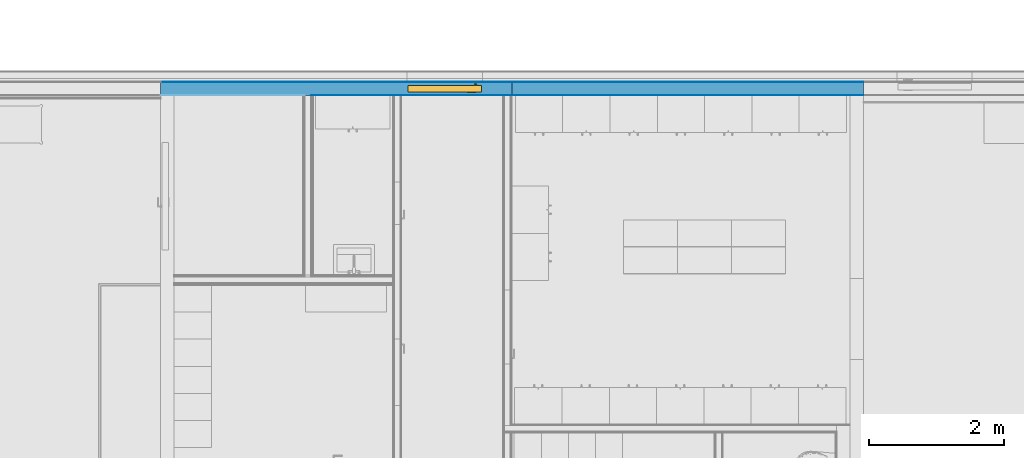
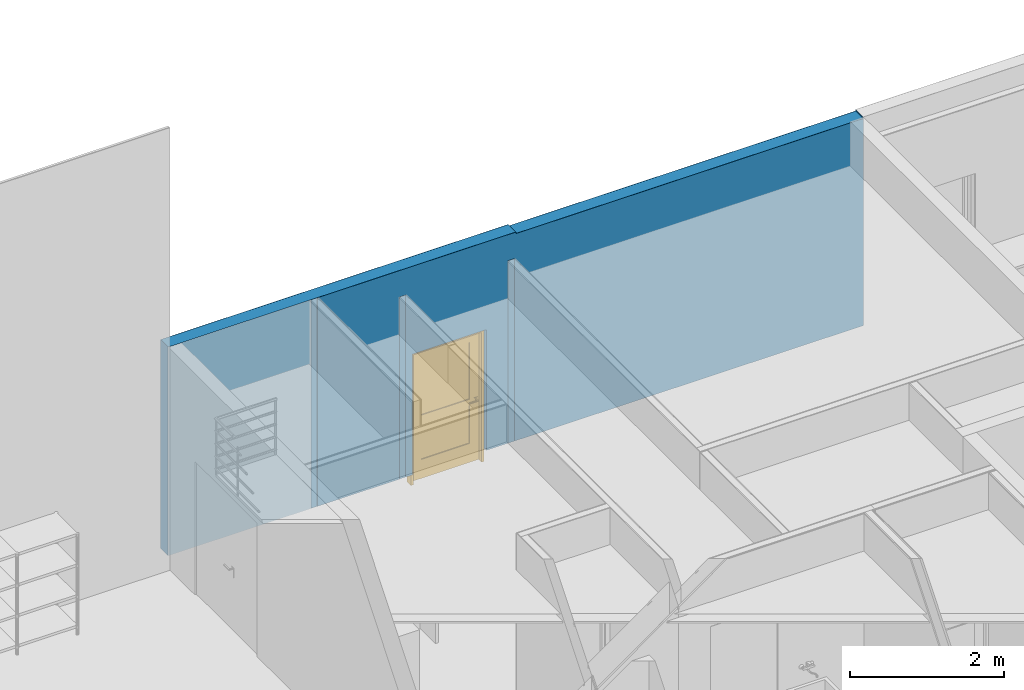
# One storey, part 25 of 67: 3 building element parts, 1 door, 1 opening, 1 element without a shape of its own, plus 1 element that does not belong to this part.
"""IFC4 building model written with IfcOpenShell, lengths in millimetres."""

import ifcopenshell
import ifcopenshell.guid

model = None  # the IFC model being written
_history = None  # IfcOwnerHistory: only IFC2X3 demands one
_inside = {}  # id of a spatial element -> (the spatial element, [elements in it])
_under = {}  # id of a project, library or spatial element -> (it, [spatial elements below it])
_declared = {}  # id of a project -> (the project, [libraries it declares])
_typed = {}  # id of a type object -> (the type object, [elements of that type])
_made_of = {}  # id of a material, layer set ... -> (it, [elements and type objects made of it])


def new_model(schema):
    """Start an empty IFC model of exactly this schema.

    Asked for "IFC4X3", IfcOpenShell would pick the latest addendum, in which some entities
    have other attributes; the version numbers below select the first issue.
    IFC2X3 requires an IfcOwnerHistory on every rooted entity: one is made here for all.
    """
    global model, _history
    if schema == "IFC4X3":
        model = ifcopenshell.file(schema_version=(4, 3, 0, 0))
    else:
        model = ifcopenshell.file(schema=schema)
    _inside.clear()
    _under.clear()
    _declared.clear()
    _typed.clear()
    _made_of.clear()
    _history = None
    if model.schema == "IFC2X3":
        org = make("IfcOrganization", Name="unknown")
        user = make(
            "IfcPersonAndOrganization",
            ThePerson=make("IfcPerson", FamilyName="unknown"),
            TheOrganization=org,
        )
        app = make(
            "IfcApplication",
            ApplicationDeveloper=org,
            Version="unknown",
            ApplicationFullName="unknown",
            ApplicationIdentifier="unknown",
        )
        _history = make(
            "IfcOwnerHistory",
            OwningUser=user,
            OwningApplication=app,
            ChangeAction="ADDED",
            CreationDate=0,
        )
    return model


def make(cls, **values):
    """One entity of the class cls with the attributes given. An attribute that is None is left unset."""
    return model.create_entity(
        cls, **{name: value for name, value in values.items() if value is not None}
    )


def entity(cls, *values):
    """Any entity or typed value of the class cls, its attributes in the order of the schema. None: left unset."""
    e = model.create_entity(cls)
    for i, value in enumerate(values):
        if value is not None:
            e[i] = value
    return e


def rooted(cls, **values):
    """An entity with a GlobalId (a new one), such as an element, a storey or a relation."""
    return make(cls, GlobalId=ifcopenshell.guid.new(), OwnerHistory=_history, **values)


def si_unit(unit_type, name, prefix=None):
    """IfcSIUnit, for example si_unit("LENGTHUNIT", "METRE", prefix="MILLI")."""
    return make("IfcSIUnit", UnitType=unit_type, Prefix=prefix, Name=name)


def converted_unit(unit_type, name, factor, base, dimensions=None, offset=None):
    """IfcConversionBasedUnit, such as the inch: factor (a typed value) times the base unit."""
    return make(
        "IfcConversionBasedUnit"
        if offset is None
        else "IfcConversionBasedUnitWithOffset",
        ConversionOffset=offset,
        Dimensions=None
        if dimensions is None
        else entity("IfcDimensionalExponents", *dimensions),
        UnitType=unit_type,
        Name=name,
        ConversionFactor=make(
            "IfcMeasureWithUnit", ValueComponent=factor, UnitComponent=base
        ),
    )


def assignment(units):
    """IfcUnitAssignment: the units of a project."""
    return None if units is None else make("IfcUnitAssignment", Units=units)


def point(xyz):
    """IfcCartesianPoint."""
    return None if xyz is None else make("IfcCartesianPoint", Coordinates=xyz)


def direction(xyz):
    """IfcDirection."""
    return None if xyz is None else make("IfcDirection", DirectionRatios=xyz)


def frame(location, z_axis=None, x_axis=None):
    """IfcAxis2Placement3D, a coordinate frame: its origin and axes. An axis left out is left unset."""
    return make(
        "IfcAxis2Placement3D",
        Location=point(location),
        Axis=direction(z_axis),
        RefDirection=direction(x_axis),
    )


def origin():
    """The frame at (0, 0, 0) with its axes left unset."""
    return frame((0.0, 0.0, 0.0))


def place(relative_to, where):
    """IfcLocalPlacement: puts the frame where relative to a parent placement (None: the world)."""
    return make(
        "IfcLocalPlacement", PlacementRelTo=relative_to, RelativePlacement=where
    )


def context(
    kind, dimensions, precision=None, world=None, true_north=None, identifier=None
):
    """IfcGeometricRepresentationContext, for example the 3D "Model" context."""
    return make(
        "IfcGeometricRepresentationContext",
        ContextIdentifier=identifier,
        ContextType=kind,
        CoordinateSpaceDimension=dimensions,
        Precision=precision,
        WorldCoordinateSystem=world,
        TrueNorth=true_north,
    )


def subcontext(parent, identifier, kind, view, scale=None):
    """IfcGeometricRepresentationSubContext, for example "Body" below "Model"."""
    return make(
        "IfcGeometricRepresentationSubContext",
        ContextIdentifier=identifier,
        ContextType=kind,
        ParentContext=parent,
        TargetScale=scale,
        TargetView=view,
    )


def project(units=None, contexts=None):
    """IfcProject with its units and contexts."""
    return rooted(
        "IfcProject",
        Name="project",
        RepresentationContexts=contexts,
        UnitsInContext=assignment(units),
    )


def spatial(cls, under=None, at=None, **own):
    """A site, building, storey or space (cls), placed at a placement, below another one or the project."""
    s = rooted(cls, ObjectPlacement=at, **own)
    if under is not None:
        _under.setdefault(under.id(), (under, []))[1].append(s)
    return s


def point_list(points):
    """IfcCartesianPointList2D or 3D."""
    cls = (
        "IfcCartesianPointList2D" if len(points[0]) == 2 else "IfcCartesianPointList3D"
    )
    return make(cls, CoordList=points)


def indexed_curve(points, segments=None, self_intersect=None):
    """IfcIndexedPolyCurve: lines and arcs through numbered points (the first is 1)."""
    return make(
        "IfcIndexedPolyCurve",
        Points=point_list(points),
        Segments=segments,
        SelfIntersect=self_intersect,
    )


def outline(outer, holes=None, kind="AREA"):
    """IfcArbitraryClosedProfileDef: a profile drawn as a closed curve; with holes, ...WithVoids."""
    if holes is None:
        return make("IfcArbitraryClosedProfileDef", ProfileType=kind, OuterCurve=outer)
    return make(
        "IfcArbitraryProfileDefWithVoids",
        ProfileType=kind,
        OuterCurve=outer,
        InnerCurves=holes,
    )


def extrude(swept, where, along, depth):
    """IfcExtrudedAreaSolid: the profile swept, set in the frame where, extruded along a direction by depth."""
    return make(
        "IfcExtrudedAreaSolid",
        SweptArea=swept,
        Position=where,
        ExtrudedDirection=direction(along),
        Depth=depth,
    )


def polygons(points, faces, closed=None, point_numbers=None):
    """IfcPolygonalFaceSet: a face is its outer loop, then its inner loops; points numbered from 1."""
    made = []
    for loops in faces:
        if len(loops) == 1:
            made.append(make("IfcIndexedPolygonalFace", CoordIndex=loops[0]))
        else:
            made.append(
                make(
                    "IfcIndexedPolygonalFaceWithVoids",
                    CoordIndex=loops[0],
                    InnerCoordIndices=loops[1:],
                )
            )
    return make(
        "IfcPolygonalFaceSet",
        Coordinates=point_list(points),
        Closed=closed,
        Faces=made,
        PnIndex=point_numbers,
    )


def shape(context_of_items, identifier, shape_type, items):
    """IfcShapeRepresentation: the items that make up one representation, for example the "Body"."""
    return make(
        "IfcShapeRepresentation",
        ContextOfItems=context_of_items,
        RepresentationIdentifier=identifier,
        RepresentationType=shape_type,
        Items=items,
    )


def source(mapping_origin, context_of_items, identifier, shape_type, items):
    """IfcRepresentationMap: a shape defined once, which mapped items show again and again."""
    return make(
        "IfcRepresentationMap",
        MappingOrigin=mapping_origin,
        MappedRepresentation=shape(context_of_items, identifier, shape_type, items),
    )


def transform(
    local_origin,
    x_axis=None,
    y_axis=None,
    z_axis=None,
    scale=None,
    scale2=None,
    scale3=None,
    uniform=True,
):
    """IfcCartesianTransformationOperator3D, or its non-uniform kind. x_axis, y_axis, z_axis: its Axis1, 2, 3."""
    if uniform:
        return make(
            "IfcCartesianTransformationOperator3D",
            Axis1=direction(x_axis),
            Axis2=direction(y_axis),
            LocalOrigin=point(local_origin),
            Scale=scale,
            Axis3=direction(z_axis),
        )
    return make(
        "IfcCartesianTransformationOperator3DnonUniform",
        Axis1=direction(x_axis),
        Axis2=direction(y_axis),
        LocalOrigin=point(local_origin),
        Scale=scale,
        Axis3=direction(z_axis),
        Scale2=scale2,
        Scale3=scale3,
    )


def mapped(mapping_source, mapping_target):
    """IfcMappedItem: shows the shape of a source again, moved by a transform."""
    return make(
        "IfcMappedItem", MappingSource=mapping_source, MappingTarget=mapping_target
    )


def material(Name=None, Category=None):
    """IfcMaterial."""
    return make("IfcMaterial", Name=Name, Category=Category)


def constituent(of_material, Name=None, Category=None, fraction=None):
    """IfcMaterialConstituent: one of the materials an element consists of."""
    return make(
        "IfcMaterialConstituent",
        Name=Name,
        Material=of_material,
        Fraction=fraction,
        Category=Category,
    )


def constituent_set(constituents=None, Name=None):
    """IfcMaterialConstituentSet."""
    return make(
        "IfcMaterialConstituentSet", Name=Name, MaterialConstituents=constituents
    )


def made_of(thing, what):
    """Note that an element or type object is made of a material, layer set ...; save() writes the relation."""
    if what is not None:
        _made_of.setdefault(what.id(), (what, []))[1].append(thing)
    return thing


def type_object(cls, material=None, **own):
    """A type object (cls), such as IfcWallType, which elements share."""
    return made_of(rooted(cls, **own), material)


def type_shapes(of_type, sources):
    """Give a type object the sources (RepresentationMaps) that its elements show as mapped items."""
    of_type.RepresentationMaps = sources


def element(
    cls,
    number,
    at=None,
    inside=None,
    cuts=None,
    type_object=None,
    material=None,
    context=None,
    identifier="Body",
    shape_type=None,
    held_by="IfcProductDefinitionShape",
    body=None,
    shapes=None,
    **own,
):
    """One element of the class cls, such as IfcWall. Its Tag is "e" and its number.

    at: its placement. inside: the storey or other place that contains it. cuts: it is an
    opening in that element (IfcRelVoidsElement). A single representation is given by context,
    identifier, shape_type and body (its items); several are given by shapes. held_by: the class
    of the entity that holds the representations. save() writes the other relations.
    """
    e = rooted(cls, Tag="e%d" % number, ObjectPlacement=at, **own)
    if body is not None:
        shapes = [shape(context, identifier, shape_type, body)]
    if shapes is not None:
        e.Representation = make(held_by, Representations=shapes)
    if inside is not None:
        _inside.setdefault(inside.id(), (inside, []))[1].append(e)
    if cuts is not None:
        rooted(
            "IfcRelVoidsElement", RelatingBuildingElement=cuts, RelatedOpeningElement=e
        )
    if type_object is not None:
        _typed.setdefault(type_object.id(), (type_object, []))[1].append(e)
    return made_of(e, material)


def fill(opening, filler):
    """IfcRelFillsElement: the door or window that sits in an opening."""
    return rooted(
        "IfcRelFillsElement",
        RelatingOpeningElement=opening,
        RelatedBuildingElement=filler,
    )


def aggregate(whole, parts):
    """IfcRelAggregates: a whole, such as a stair, and the parts it consists of."""
    return rooted("IfcRelAggregates", RelatingObject=whole, RelatedObjects=parts)


def save(model, path):
    """Write the relations noted so far, then the file.

    IfcRelAggregates (storeys below a building ...), IfcRelContainedInSpatialStructure (elements
    in a storey), IfcRelDefinesByType, IfcRelAssociatesMaterial and IfcRelDeclares: one each for
    every whole, place, type object, material and project.
    """
    for whole, parts in _under.values():
        aggregate(whole, parts)
    for where, things in _inside.values():
        rooted(
            "IfcRelContainedInSpatialStructure",
            RelatedElements=things,
            RelatingStructure=where,
        )
    for kind, things in _typed.values():
        rooted("IfcRelDefinesByType", RelatedObjects=things, RelatingType=kind)
    for what, things in _made_of.values():
        rooted("IfcRelAssociatesMaterial", RelatedObjects=things, RelatingMaterial=what)
    for by, libraries in _declared.values():
        rooted("IfcRelDeclares", RelatingContext=by, RelatedDefinitions=libraries)
    model.write(path)


model = new_model("IFC4")

# Units and contexts
model_context = context("Model", 3, precision=0.01, world=origin(), true_north=direction((0.0, 1.0)))
body_context = subcontext(model_context, "Body", "Model", "MODEL_VIEW")
ifc_project = project(units=[si_unit("LENGTHUNIT", "METRE", prefix="MILLI"), si_unit("AREAUNIT", "SQUARE_METRE"), si_unit("VOLUMEUNIT", "CUBIC_METRE"), converted_unit("PLANEANGLEUNIT", "DEGREE", entity("IfcPlaneAngleMeasure", 0.017453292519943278), si_unit("PLANEANGLEUNIT", "RADIAN"), dimensions=[0, 0, 0, 0, 0, 0, 0])], contexts=[model_context])

# Site, building, storey
site_placement = place(None, origin())
site = spatial("IfcSite", under=ifc_project, at=site_placement, Name="Tomtens navn", CompositionType="ELEMENT")
building_placement = place(site_placement, origin())
building = spatial("IfcBuilding", under=site, at=building_placement, Name="Byggets navn", CompositionType="ELEMENT")
storey_placement = place(building_placement, origin())
storey = spatial("IfcBuildingStorey", under=building, at=storey_placement, Name="Level 01", CompositionType="ELEMENT", Elevation=2.1993652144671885e-25)

# Door
ifc_material_1 = material(Name="Rustfritt Stål", Category="Metal")
ifc_constituent_1 = constituent(ifc_material_1, Name="Rustfritt Stål", Category="Metal", fraction=0.0022398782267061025)
ifc_material_2 = material(Name="NO_Maling - mørk grå", Category="Overflatebehandling")
ifc_constituent_2 = constituent(ifc_material_2, Name="NO_Maling - mørk grå", Category="Overflatebehandling", fraction=0.5258750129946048)
ifc_material_3 = material(Name="NO_Glass - Klart", Category="Unassigned")
ifc_constituent_3 = constituent(ifc_material_3, Name="NO_Glass - Klart", Category="Unassigned", fraction=0.21190552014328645)
ifc_material_4 = material(Name="NO_Maling - sort", Category="Overflatebehandling")
ifc_constituent_4 = constituent(ifc_material_4, Name="NO_Maling - sort", Category="Overflatebehandling", fraction=0.2599795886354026)
ifc_constituent_set_1 = constituent_set(constituents=[ifc_constituent_1, ifc_constituent_2, ifc_constituent_3, ifc_constituent_4])
ifc_constituent_5 = constituent(ifc_material_1, Name="Rustfritt Stål", Category="Metal", fraction=0.0022398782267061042)
ifc_constituent_6 = constituent(ifc_material_2, Name="Panel", Category="Overflatebehandling", fraction=0.5258750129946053)
ifc_constituent_7 = constituent(ifc_material_3, Name="Glass", Category="Unassigned", fraction=0.21190552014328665)
ifc_constituent_8 = constituent(ifc_material_4, Name="Frame/Mullion", Category="Overflatebehandling", fraction=0.2599795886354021)
ifc_constituent_set_2 = constituent_set(constituents=[ifc_constituent_5, ifc_constituent_6, ifc_constituent_7, ifc_constituent_8])
door_type = type_object("IfcDoorType", Name="Enfløyet:YD01 Glassdør sprosse 11x21M", OperationType="SINGLE_SWING_LEFT", PredefinedType="DOOR", material=ifc_constituent_set_2)
shared_shape = source(origin(), body_context, "Body", "SweptSolid", [
    extrude(outline(indexed_curve([(-33.33333333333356, -50.833333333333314), (24.16666666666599, -50.833333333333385), (24.16666666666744, 86.66666666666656), (9.166666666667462, 86.6666666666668), (9.166666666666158, -35.83333333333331), (-33.33333333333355, -35.83333333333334), (-33.33333333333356, -50.833333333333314)], self_intersect=False)), frame((968.6666666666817, 168.941039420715, 980.5000000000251), z_axis=(0.0, 0.0, 1.0), x_axis=(0.0, 1.0, 0.0)), (0.0, 0.0, 1.0), 14.999999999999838),
    extrude(outline(indexed_curve([(-2.8000000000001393, -25.000000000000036), (2.799999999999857, -25.000000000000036), (2.8000000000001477, 25.000000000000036), (-2.799999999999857, 24.999999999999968), (-2.8000000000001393, -25.000000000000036)], self_intersect=False)), frame((1012.0, 132.8000000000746, 850.9862950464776), z_axis=(0.0, 0.0, 1.0), x_axis=(0.0, -1.0, 0.0)), (0.0, 0.0, 1.0), 159.01370495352),
    extrude(outline(indexed_curve([(-50.83333333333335, -33.33333333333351), (-35.83333333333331, -33.33333333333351), (-35.83333333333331, 9.166666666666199), (86.66666666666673, 9.166666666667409), (86.66666666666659, 24.1666666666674), (-50.83333333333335, 24.166666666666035), (-50.83333333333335, -33.33333333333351)], self_intersect=False)), frame((968.6666666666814, 51.058960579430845, 980.5000000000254), z_axis=(0.0, 0.0, 1.0), x_axis=(-1.0, 0.0, 0.0)), (0.0, 0.0, 1.0), 14.999999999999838),
    extrude(outline(indexed_curve([(-24.999999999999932, -2.7999999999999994), (25.00000000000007, -2.7999999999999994), (25.0, 2.799999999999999), (-24.999999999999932, 2.8000000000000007), (-24.999999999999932, -2.7999999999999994)], self_intersect=False)), frame((1012.0, 87.20000000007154, 850.9862950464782)), (0.0, 0.0, 1.0), 159.01370495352),
    extrude(outline(indexed_curve([(-1021.0, -506.99999999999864), (1021.0, -506.9999999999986), (1021.0, 506.9999999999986), (-1021.0, 506.9999999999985), (-1021.0, -506.99999999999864)], self_intersect=False), holes=[indexed_curve([(120.99999999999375, 365.000000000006), (720.9999999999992, 365.000000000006), (720.9999999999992, -350.0000000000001), (120.99999999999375, -350.0000000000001), (120.99999999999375, 365.000000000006)], self_intersect=False), indexed_curve([(-879.0000000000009, -350.0000000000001), (-879.0000000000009, 365.000000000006), (20.99999999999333, 365.000000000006), (20.99999999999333, -350.0000000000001), (-879.0000000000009, -350.0000000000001)], self_intersect=False)]), frame((555.0, 130.0, 1031.0), z_axis=(0.0, -1.0, 0.0), x_axis=(0.0, 0.0, -1.0)), (0.0, 0.0, 1.0), 39.99999999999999),
    extrude(outline(indexed_curve([(-7.499999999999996, -357.50000000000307), (7.499999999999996, -357.50000000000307), (7.499999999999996, 357.50000000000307), (-7.499999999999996, 357.50000000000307), (-7.499999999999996, -357.50000000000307)], self_intersect=False)), frame((562.5000000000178, 110.0, 310.0), z_axis=(0.0, 0.0, 1.0), x_axis=(0.0, -1.0, 0.0)), (0.0, 0.0, 1.0), 600.0000000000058),
    extrude(outline(indexed_curve([(-7.499999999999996, -357.50000000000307), (7.499999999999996, -357.50000000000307), (7.499999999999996, 357.50000000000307), (-7.499999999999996, 357.50000000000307), (-7.499999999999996, -357.50000000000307)], self_intersect=False)), frame((562.5000000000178, 110.0, 1010.0), z_axis=(0.0, 0.0, 1.0), x_axis=(0.0, -1.0, 0.0)), (0.0, 0.0, 1.0), 899.9999999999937),
    extrude(outline(indexed_curve([(506.99999999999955, -1035.5000000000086), (544.9999999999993, -1035.5000000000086), (544.9999999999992, 1054.5000000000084), (-544.9999999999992, 1054.5000000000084), (-544.9999999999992, -1035.5000000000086), (-506.99999999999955, -1035.5000000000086), (-506.9999999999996, 1016.5000000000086), (506.9999999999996, 1016.5000000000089), (506.99999999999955, -1035.5000000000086)], self_intersect=False)), frame((555.0, 130.0, 1035.5000000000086), z_axis=(0.0, -1.0, 0.0), x_axis=(1.0, 0.0, 0.0)), (0.0, 0.0, 1.0), 99.99999999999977),
])
type_shapes(door_type, [shared_shape])
wall_placement = place(storey_placement, frame((58422.853528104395, 22961.466456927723, 200.0)))
opening_placement = place(wall_placement, frame((3650.0, -100.0, -200.0)))
door_placement = place(opening_placement, frame((0.0, 20.0, 0.0)))
door = element("IfcDoor", 1, at=door_placement, inside=storey, type_object=door_type, material=ifc_constituent_set_1, Name="Enfløyet:YD01 Glassdør sprosse 11x21M", OverallHeight=2110.000000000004, OverallWidth=1109.9999999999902, PredefinedType="DOOR", context=body_context, shape_type="MappedRepresentation", body=[
    mapped(shared_shape, transform((0.0, 0.0, 0.0), scale=1.0)),
])

# Wall, opening
wall_type = type_object("IfcWallType", Name="Basic Wall:YV02 Sandwichvegg 200 rød", PredefinedType="STANDARD")
wall = element("IfcWall", 2, at=wall_placement, inside=storey, type_object=wall_type, Name="Basic Wall:YV02 Sandwichvegg 200 rød", PredefinedType="NOTDEFINED")
opening = element("IfcOpeningElement", 3, at=opening_placement, cuts=wall, Name="Enfløyet:YD01 Glassdør sprosse 11x21M:1", PredefinedType="OPENING", context=body_context, shape_type="SweptSolid", body=[
    extrude(outline(indexed_curve([(0.0, -5.272662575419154e-31), (2110.000000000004, -5.272662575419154e-31), (2110.000000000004, 1109.9999999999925), (0.0, 1109.9999999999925), (0.0, -5.272662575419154e-31)], self_intersect=False)), frame((0.0, 0.0, 0.0), z_axis=(0.0, 1.0, 0.0), x_axis=(0.0, 0.0, 1.0)), (0.0, 0.0, 1.0), 200.0),
])

fill(opening, door)

# Building element part
ifc_material_5 = material(Name="NO_Maling - rød", Category="Overflatebehandling")
building_element_part_1_placement = place(wall_placement, frame((0.0, 98.0, 0.0)))
building_element_part_1 = element("IfcBuildingElementPart", 4, at=building_element_part_1_placement, material=ifc_material_5, Name="NO_Maling - rød", context=body_context, shape_type="Tessellation", body=[
    polygons([(-1.1382084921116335e-11, -3.637978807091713e-12, 0.0), (3650.000000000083, -3.637978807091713e-12, 0.0), (3650.000000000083, -3.637978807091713e-12, 1910.000000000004), (4760.000000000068, -3.637978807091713e-12, 1910.000000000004), (4760.000000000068, -3.637978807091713e-12, 0.0), (10400.000000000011, -7.275957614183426e-12, 0.0), (10400.000000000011, -7.275957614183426e-12, 3299.999999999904), (10399.50000000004, -7.275957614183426e-12, 3299.999999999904), (10399.50000000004, -7.275957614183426e-12, 3275.287556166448), (5199.500000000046, -3.637978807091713e-12, 3275.287556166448), (5199.500000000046, -3.637978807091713e-12, 3299.999999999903), (-1.1382084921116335e-11, -3.637978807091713e-12, 3299.999999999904), (-1.1381809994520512e-11, 1.999999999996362, 0.0), (3650.000000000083, 1.999999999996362, 0.0), (10399.999999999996, 1.999999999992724, 0.0), (10399.999999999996, 1.999999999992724, 3299.999999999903), (10399.50000000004, 1.999999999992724, 3299.999999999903), (-1.1381809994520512e-11, 1.999999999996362, 3299.999999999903), (3650.000000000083, 1.999999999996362, 1910.000000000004), (4760.000000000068, 1.999999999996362, 1910.000000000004), (4760.000000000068, 1.999999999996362, 0.0), (10399.50000000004, 1.999999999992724, 3275.287556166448), (5199.500000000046, 1.999999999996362, 3275.287556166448), (5199.500000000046, 1.999999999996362, 3299.999999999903), (10.000000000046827, 1.999999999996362, 3299.999999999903)], [[[1, 2, 3, 4, 5, 6, 7, 8, 9, 10, 11, 12]], [[13, 14, 2, 1]], [[15, 16, 7, 6]], [[16, 17, 8, 7]], [[18, 13, 1, 12]], [[14, 19, 3, 2]], [[19, 20, 4, 3]], [[20, 21, 5, 4]], [[22, 23, 10, 9]], [[17, 22, 9, 8]], [[23, 24, 11, 10]], [[25, 18, 12, 11, 24]], [[21, 15, 6, 5]], [[16, 15, 21, 20, 19, 14, 13, 18, 25, 24, 23, 22, 17]]], closed=True),
])

building_element_part_2_placement = place(wall_placement, frame((2229.500000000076, -100.0, 0.0)))
building_element_part_2 = element("IfcBuildingElementPart", 5, at=building_element_part_2_placement, material=ifc_material_1, Name="Rustfritt Stål", context=body_context, shape_type="Tessellation", body=[
    polygons([(8170.499999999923, 1.999999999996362, 0.0), (8170.499999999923, 1.999999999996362, 3299.999999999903), (8170.499999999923, -7.275957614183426e-12, 3299.999999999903), (8170.499999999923, -7.275957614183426e-12, 0.0), (8169.999999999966, 1.999999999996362, 3299.999999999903), (8169.999999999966, -7.275957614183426e-12, 3299.999999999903), (1420.5000000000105, 2.0, 0.0), (1420.5000000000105, 2.0, 1910.000000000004), (1420.5000000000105, -3.637978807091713e-12, 1910.000000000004), (1420.5000000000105, -3.637978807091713e-12, 0.0), (2530.499999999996, 2.0, 1910.000000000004), (2530.499999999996, -3.637978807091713e-12, 1910.000000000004), (2530.499999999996, 2.0, 0.0), (2530.499999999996, -3.637978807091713e-12, 0.0), (8169.999999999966, 1.999999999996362, 3275.287556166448), (2969.999999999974, 2.0, 3275.287556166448), (2969.999999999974, -3.637978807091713e-12, 3275.287556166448), (8169.999999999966, -7.275957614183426e-12, 3275.287556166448), (2969.999999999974, 2.0, 3299.999999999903), (2969.999999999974, -3.637978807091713e-12, 3299.999999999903), (-4.133070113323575e-12, 2.0, 3299.999999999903), (-4.1333450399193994e-12, -3.637978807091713e-12, 3299.999999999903), (26.000000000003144, -3.637978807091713e-12, 3299.999999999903), (2855.5000000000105, 2.0, 0.0), (2855.5000000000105, -3.637978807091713e-12, 0.0), (-4.133070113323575e-12, 2.0, 0.0), (-4.1333450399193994e-12, -3.637978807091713e-12, 0.0), (1320.9999999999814, -3.637978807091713e-12, 2879.9999999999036), (1320.9999999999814, 2.0, 2879.9999999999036), (1320.9999999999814, 2.0, 0.0), (1320.9999999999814, -3.637978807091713e-12, 0.0), (1225.9999999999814, -3.637978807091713e-12, 2879.9999999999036), (1225.9999999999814, 2.0, 2879.9999999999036), (1225.9999999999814, -3.637978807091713e-12, 0.0), (1225.9999999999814, 2.0, 0.0), (2950.4999999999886, -3.637978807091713e-12, 2887.999999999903), (2950.4999999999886, 2.0, 2887.999999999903), (2950.4999999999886, 2.0, 0.0), (2950.4999999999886, -3.637978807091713e-12, 0.0), (2855.5000000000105, -3.637978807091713e-12, 2887.999999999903), (2855.5000000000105, 2.0, 2887.999999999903)], [[[1, 2, 3, 4]], [[2, 5, 6, 3]], [[7, 8, 9, 10]], [[8, 11, 12, 9]], [[11, 13, 14, 12]], [[15, 16, 17, 18]], [[5, 15, 18, 6]], [[16, 19, 20, 17]], [[20, 19, 21, 22, 23]], [[14, 13, 24, 25]], [[22, 21, 26, 27]], [[28, 29, 30, 31]], [[29, 28, 32, 33]], [[33, 32, 34, 35]], [[36, 37, 38, 39]], [[37, 36, 40, 41]], [[41, 40, 25, 24]], [[4, 3, 6, 18, 17, 20, 23, 22, 27, 34, 32, 28, 31, 10, 9, 12, 14, 25, 40, 36, 39]], [[1, 4, 39, 38]], [[27, 26, 35, 34]], [[7, 10, 31, 30]], [[19, 16, 15, 5, 2, 1, 38, 37, 41, 24, 13, 11, 8, 7, 30, 29, 33, 35, 26, 21]]], closed=True),
])

building_element_part_3_placement = place(wall_placement, origin())
building_element_part_3 = element("IfcBuildingElementPart", 6, at=building_element_part_3_placement, material=ifc_material_1, Name="Rustfritt Stål", context=body_context, shape_type="SweptSolid", body=[
    extrude(outline(indexed_curve([(-1.000000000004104, -1067.2500000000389), (0.9999999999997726, -1067.2500000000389), (0.9999999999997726, 1067.2500000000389), (-1.000000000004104, 1067.2500000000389), (-1.000000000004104, -1067.2500000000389)], self_intersect=False)), frame((1067.250000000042, -99.0, 0.0), z_axis=(0.0, 0.0, 1.0), x_axis=(0.0, -1.0, 0.0)), (0.0, 0.0, 1.0), 3299.999999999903),
])

ifc_material_6 = material(Name="NO_Isolasjon - Fast", Category="Isolasjon")
building_element_part_4_placement = place(wall_placement, frame((0.0, -98.0, 0.0)))
building_element_part_4 = element("IfcBuildingElementPart", 7, at=building_element_part_4_placement, material=ifc_material_6, Name="NO_Isolasjon - Fast", context=body_context, shape_type="Tessellation", body=[
    polygons([(3650.000000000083, 195.99999999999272, 0.0), (-1.1382084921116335e-11, 195.99999999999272, 0.0), (-1.1382084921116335e-11, 195.99999999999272, 3299.999999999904), (5199.500000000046, 195.99999999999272, 3299.999999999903), (5199.500000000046, 195.99999999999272, 3275.287556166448), (10399.50000000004, 195.9999999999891, 3275.287556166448), (10399.50000000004, 195.9999999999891, 3299.999999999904), (10400.000000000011, 195.9999999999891, 3299.999999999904), (10400.000000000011, 195.9999999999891, 0.0), (4760.000000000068, 195.99999999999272, 0.0), (4760.000000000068, 195.99999999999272, 1910.000000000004), (3650.000000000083, 195.99999999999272, 1910.000000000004), (-1.1409027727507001e-11, -3.637978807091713e-12, 0.0), (3650.000000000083, -3.637978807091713e-12, 0.0), (3650.000000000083, -3.637978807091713e-12, 1910.000000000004), (4760.000000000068, -3.637978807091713e-12, 1910.000000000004), (4760.000000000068, -3.637978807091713e-12, 0.0), (10399.999999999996, -7.275957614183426e-12, 0.0), (10399.999999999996, -7.275957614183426e-12, 3299.999999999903), (10399.50000000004, -7.275957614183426e-12, 3299.999999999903), (10399.50000000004, -7.275957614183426e-12, 3275.287556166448), (5199.500000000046, -3.637978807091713e-12, 3275.287556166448), (5199.500000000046, -3.637978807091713e-12, 3299.999999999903), (-1.1409027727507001e-11, -3.637978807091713e-12, 3299.999999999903)], [[[1, 2, 3, 4, 5, 6, 7, 8, 9, 10, 11, 12]], [[13, 14, 15, 16, 17, 18, 19, 20, 21, 22, 23, 24]], [[13, 2, 1, 14]], [[18, 9, 8, 19]], [[23, 4, 3, 24]], [[2, 13, 24, 3]], [[14, 1, 12, 15]], [[15, 12, 11, 16]], [[10, 17, 16, 11]], [[5, 22, 21, 6]], [[20, 7, 6, 21]], [[4, 23, 22, 5]], [[19, 8, 7, 20]], [[17, 10, 9, 18]]], closed=True),
])

aggregate(wall, [building_element_part_1, building_element_part_2, building_element_part_3, building_element_part_4])

save(model, "model.ifc")
